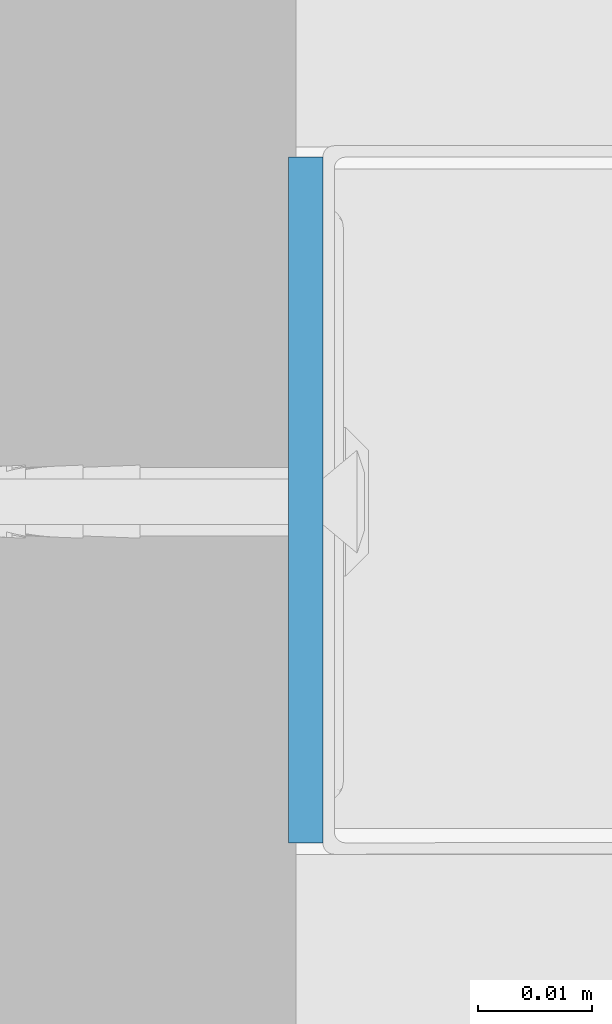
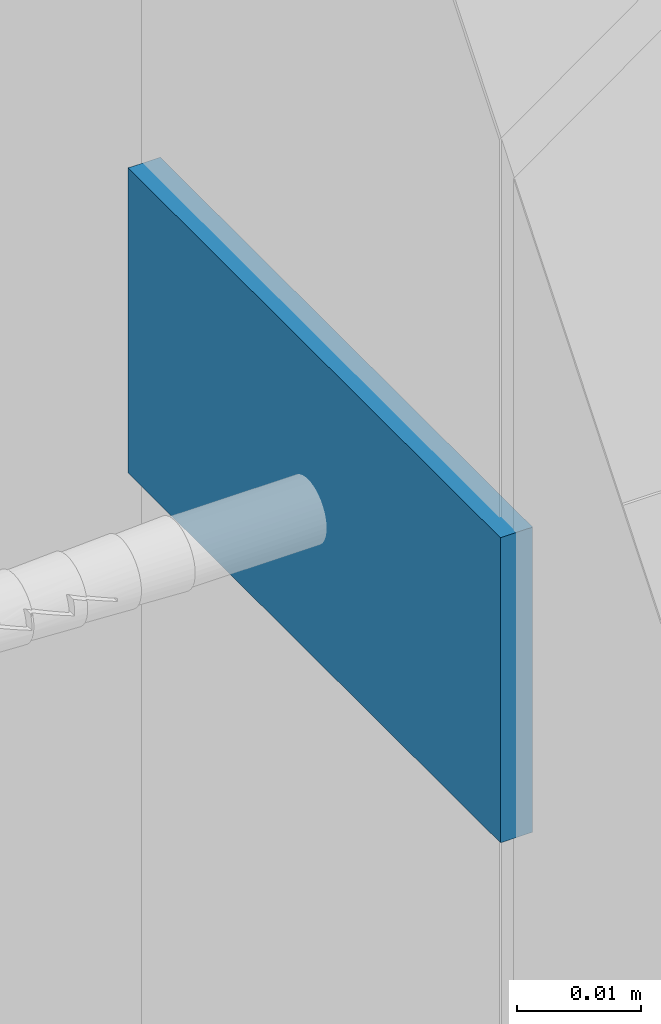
# One storey, part 62 of 67: 1 wall.
"""IFC2X3 building model written with IfcOpenShell, lengths in millimetres."""

from ifc_helpers import new_model, si_unit, frame, origin_with_axes, place, context, subcontext, project, spatial, faceted_brep, material, type_object, element, save


model = new_model("IFC2X3")

# Units and contexts
model_context = context("Model", 3, world=origin_with_axes())
body_context = subcontext(model_context, "Body", "Model", "MODEL_VIEW")
ifc_project = project(units=[si_unit("LENGTHUNIT", "METRE", prefix="MILLI"), si_unit("AREAUNIT", "SQUARE_METRE"), si_unit("VOLUMEUNIT", "CUBIC_METRE")], contexts=[model_context])

# Site, building, storey
site_placement = place(None, frame((2152.14102611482, 674.9749105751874, 57.61556563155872), z_axis=(0.0, 0.0, 1.0), x_axis=(-1.1102230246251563e-16, 1.0, 0.0)))
site = spatial("IfcSite", under=ifc_project, at=site_placement, Name="Default Site", CompositionType="ELEMENT")
building_placement = place(site_placement, origin_with_axes())
building = spatial("IfcBuilding", under=site, at=building_placement, Name="Default Building", CompositionType="ELEMENT")
storey_placement = place(building_placement, origin_with_axes())
storey = spatial("IfcBuildingStorey", under=building, at=storey_placement, Name="Default Building Storey", CompositionType="ELEMENT", Elevation=57.61556563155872)

# Wall
ifc_material = material(Name="Default")
wall_type = type_object("IfcWallType", Name="Taśma uszczelniająca piankowa RIGIPS szer.30mm#9", PredefinedType="NOTDEFINED")
wall_placement = place(storey_placement, frame((3408.037086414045, 2019.778611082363, 1278.8496604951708), z_axis=(0.0, 0.0, 1.0), x_axis=(1.0, 0.0, 0.0)))
element("IfcWall", 1, at=wall_placement, inside=storey, type_object=wall_type, material=ifc_material, Name="Taśma uszczelniająca piankowa RIGIPS szer.30mm", context=body_context, shape_type="Brep", body=[
    faceted_brep([(59.99999865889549, 0.0, 4.511946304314e-12), (0.0, 0.0, 0.0), (1.0828671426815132e-12, -2.2379254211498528e-11, -29.999999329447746), (59.99999865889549, -2.2379254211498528e-11, -29.999999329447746), (0.0, 3.000000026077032, 0.0), (1.0828671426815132e-12, 3.000000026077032, -29.999999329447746), (59.99999865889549, 3.000000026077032, 0.0), (59.99999865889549, 3.000000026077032, -29.999999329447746)], [[[0, 1, 2, 3]], [[1, 4, 5, 2]], [[4, 6, 7, 5]], [[6, 0, 3, 7]], [[7, 3, 2, 5]], [[0, 6, 4, 1]]]),
])

save(model, "model.ifc")
